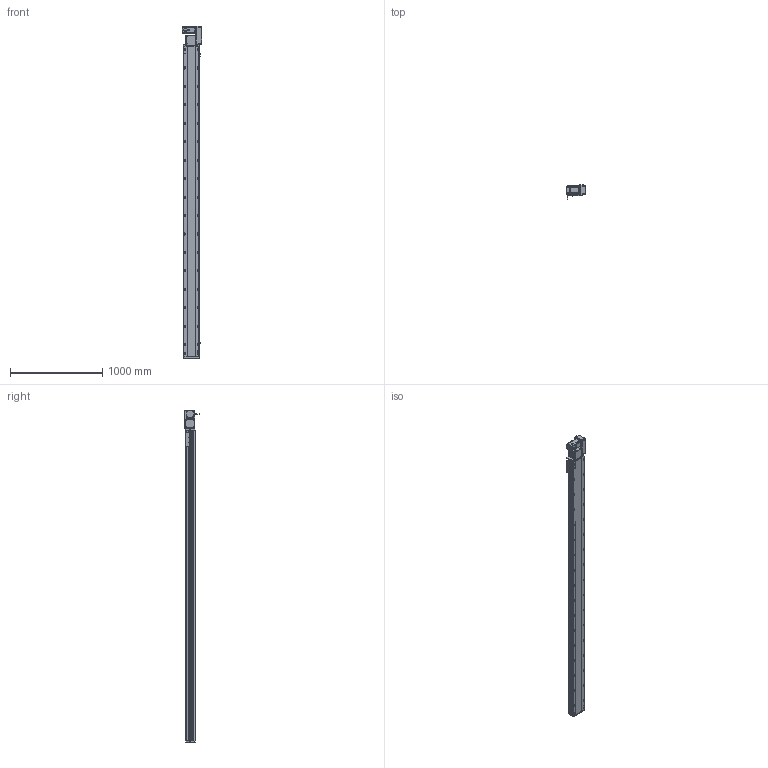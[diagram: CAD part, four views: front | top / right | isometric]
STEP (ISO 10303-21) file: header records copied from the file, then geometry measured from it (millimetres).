
FILE_DESCRIPTION (( 'STEP AP214' ), '1' );
FILE_NAME ('RTB17S-XX-3100-R-M75-C4.STEP', '2025-12-12T01:51:28', ( '' ), ( '' ), 'SwSTEP 2.0', 'SolidWorks 2018', '' );
FILE_SCHEMA (( 'AUTOMOTIVE_DESIGN' ));
Length unit declared in the file: millimetre
Products named in the file (15): RTB17S-L-004-賑釱^RTB17S-賑釱_RTB17S-XX-XX-R-M75-C4; RTB17S-L-007奻裔^RTB17S-XX-XX-R-M75-C4; RTB17S-L-001-耜醱啣^RTB17S-XX-XX-R-M75-C4; RTB22S-GY-008-M75--萇儂啣^RTB17S-R-々湍釱蚾饜-750W_RTB17S-XX-XX-R-M75-C4; RTB22S-GY-017P^RTB17S-R-々湍釱蚾饜-750W_RTB17S-XX-XX-R-M75-C4; RTB17S-XX-3100-R-M75-C4; RTB17S-L-014-T20-P75--々湍釱^RTB17S-R-々湍釱蚾饜-750W_RTB17S-XX-XX-R-M75-C4; RTB17S-R-々湍釱蚾饜-750W^RTB17S-XX-XX-R-M75-C4; EE672^RTB17S-XX-XX-R-M75-C4; 750W萇儂^RTB17S-XX-XX-R-M75-C4; RTB17S-賑釱^RTB17S-XX-XX-R-M75-C4; RTB22S-GY-018P^RTB17S-R-々湍釱蚾饜-750W_RTB17S-XX-XX-R-M75-C4; RTB22S-GY-005P^RTB17S-R-々湍釱蚾饜-750W_RTB17S-XX-XX-R-M75-C4; RTB17-R-011菁釱^RTB17S-XX-XX-R-M75-C4; RTH13-BL-012覜茼え俋离^RTB17S-賑釱_RTB17S-XX-XX-R-M75-C4
Assembly tree (17 placements, depth 3):
  RTB17S-XX-3100-R-M75-C4
    RTB17-R-011菁釱^RTB17S-XX-XX-R-M75-C4
    EE672^RTB17S-XX-XX-R-M75-C4  x3
    RTB17S-L-001-耜醱啣^RTB17S-XX-XX-R-M75-C4
    RTB17S-賑釱^RTB17S-XX-XX-R-M75-C4
      RTB17S-L-004-賑釱^RTB17S-賑釱_RTB17S-XX-XX-R-M75-C4
      RTH13-BL-012覜茼え俋离^RTB17S-賑釱_RTB17S-XX-XX-R-M75-C4
    RTB17S-L-007奻裔^RTB17S-XX-XX-R-M75-C4
    750W萇儂^RTB17S-XX-XX-R-M75-C4
    RTB17S-R-々湍釱蚾饜-750W^RTB17S-XX-XX-R-M75-C4
      RTB17S-L-014-T20-P75--々湍釱^RTB17S-R-々湍釱蚾饜-750W_RTB17S-XX-XX-R-M75-C4
      RTB22S-GY-005P^RTB17S-R-々湍釱蚾饜-750W_RTB17S-XX-XX-R-M75-C4
      RTB22S-GY-017P^RTB17S-R-々湍釱蚾饜-750W_RTB17S-XX-XX-R-M75-C4  x2
      RTB22S-GY-008-M75--萇儂啣^RTB17S-R-々湍釱蚾饜-750W_RTB17S-XX-XX-R-M75-C4
      RTB22S-GY-018P^RTB17S-R-々湍釱蚾饜-750W_RTB17S-XX-XX-R-M75-C4
Bounding box: 207.4 x 152.7 x 3599 mm (x, y, z)
Volume: 25325951.5 mm3; surface area: 4651309.7 mm2
Topology: 17 solids, 17 shells, 2265 faces, 6376 edges, 4130 vertices
Faces by surface type: plane 992, cylinder 857, bspline 294, cone 110, sphere 8, torus 4
Entity records: 66550 total; most frequent: CARTESIAN_POINT 19840, ORIENTED_EDGE 9596, DIRECTION 8852, EDGE_CURVE 4798, AXIS2_PLACEMENT_3D 3150, VERTEX_POINT 3134, VECTOR 2552, LINE 2552
